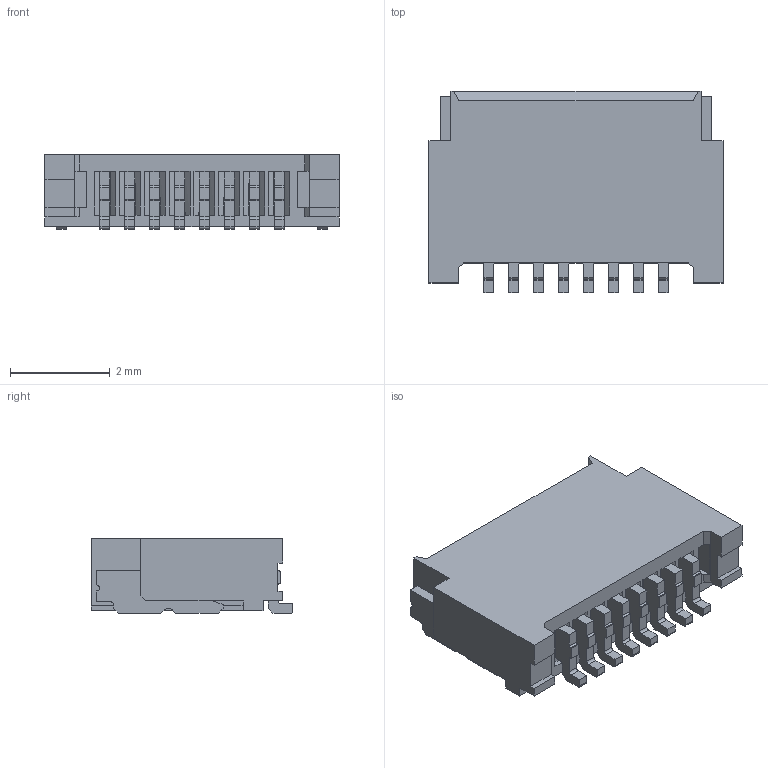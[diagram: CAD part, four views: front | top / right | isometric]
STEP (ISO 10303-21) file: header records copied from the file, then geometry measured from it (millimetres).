
FILE_DESCRIPTION (( 'STEP AP214' ), '1' );
FILE_NAME ('00_6284_008_001_846_+.STEP', '2019-11-13T01:53:18', ( '' ), ( '' ), 'SwSTEP 2.0', 'SolidWorks 2017', '' );
FILE_SCHEMA (( 'AUTOMOTIVE_DESIGN' ));
Length unit declared in the file: millimetre
Products named in the file (1): 00_6284_008_001_846_+
Bounding box: 5.9 x 4.05 x 1.5 mm (x, y, z)
Volume: 23.9 mm3; surface area: 106.9 mm2
Topology: 1 solids, 1 shells, 302 faces, 844 edges, 552 vertices
Faces by surface type: plane 252, cylinder 50
Entity records: 9614 total; most frequent: CARTESIAN_POINT 1819, ORIENTED_EDGE 1688, DIRECTION 1506, EDGE_CURVE 844, LINE 708, VECTOR 708, VERTEX_POINT 552, AXIS2_PLACEMENT_3D 399
